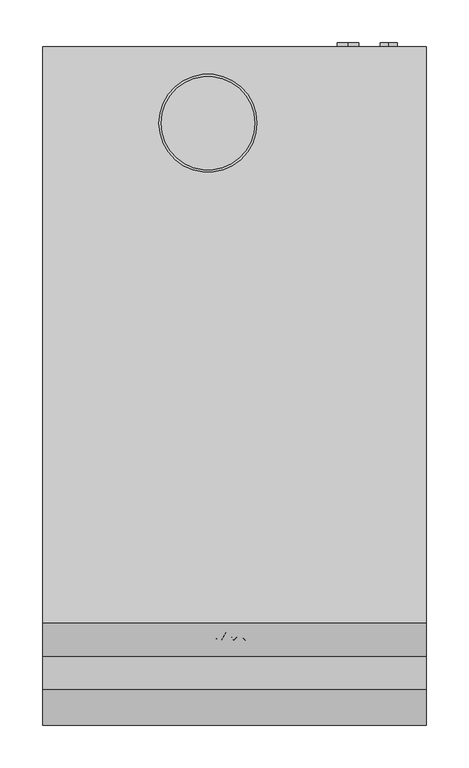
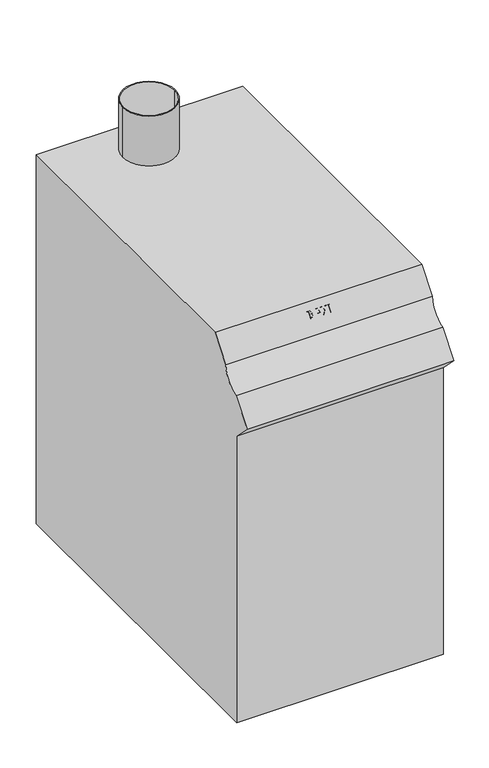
"""IFC4 building model written with IfcOpenShell, lengths in millimetres: proxy geometry, BAXI_ГазовыйКотел_Power_HT_45-150 : BAXI_Газовый котел_Power_HT_1.850."""

from ifc_helpers import new_model, si_unit, point, frame, frame_2d, origin, place, context, project, spatial, polyline, circle_curve, trimmed, segment, composite_curve, outline, extrude, source, transform, mapped, element, save


def mechanical_equipment_393236bb(model_context):
    return source(origin(), model_context, "Body", "SweptSolid", [
        extrude(outline(composite_curve([segment(polyline([(-5.0, 850.0), (-5.0, 0.0), (-761.0, 0.0), (-761.0, 660.0), (-801.0, 700.0), (-759.2660851, 752.0109492)]), True, "CONTINUOUS"), segment(trimmed(circle_curve(frame_2d((-771.6738547, 801.4105648)), 50.9340237), [point((-759.2660851, 752.0109492))], [point((-720.7593668, 800.0))], True, "CARTESIAN"), True, "CONTINUOUS"), segment(polyline([(-720.7593668, 800.0), (-680.6390502, 850.0), (-5.0, 850.0)]), True, "CONTINUOUS")], self_intersect=False)), frame((-225.0, 0.0, 0.0), z_axis=(1.0, 0.0, 0.0), x_axis=(0.0, 1.0, 0.0)), (0.0, 0.0, 1.0), 450.0),
        extrude(outline(composite_curve([segment(trimmed(circle_curve(frame_2d((346.0, 133.5)), 12.5), [point((333.5, 133.5))], [point((358.5, 133.5))], False, "CARTESIAN"), True, "CONTINUOUS"), segment(trimmed(circle_curve(frame_2d((346.0, 133.5)), 12.5), [point((358.5, 133.5))], [point((333.5, 133.5))], False, "CARTESIAN"), True, "CONTINUOUS")], self_intersect=False)), frame((0.0, -94.5, 0.0), z_axis=(0.0, 1.0, 0.0), x_axis=(0.0, 0.0, 1.0)), (0.0, 0.0, 1.0), 94.5),
        extrude(outline(composite_curve([segment(trimmed(circle_curve(frame_2d((186.0, 133.5)), 12.5), [point((173.5, 133.5))], [point((198.5, 133.5))], False, "CARTESIAN"), True, "CONTINUOUS"), segment(trimmed(circle_curve(frame_2d((186.0, 133.5)), 12.5), [point((198.5, 133.5))], [point((173.5, 133.5))], False, "CARTESIAN"), True, "CONTINUOUS")], self_intersect=False)), frame((0.0, -94.5, 0.0), z_axis=(0.0, 1.0, 0.0), x_axis=(0.0, 0.0, 1.0)), (0.0, 0.0, 1.0), 94.5),
        extrude(outline(composite_curve([segment(trimmed(circle_curve(frame_2d((476.0, 181.0)), 10.0), [point((466.0, 181.0))], [point((486.0, 181.0))], False, "CARTESIAN"), True, "CONTINUOUS"), segment(trimmed(circle_curve(frame_2d((476.0, 181.0)), 10.0), [point((486.0, 181.0))], [point((466.0, 181.0))], False, "CARTESIAN"), True, "CONTINUOUS")], self_intersect=False)), frame((0.0, -94.5, 0.0), z_axis=(0.0, 1.0, 0.0), x_axis=(0.0, 0.0, 1.0)), (0.0, 0.0, 1.0), 94.5),
        extrude(outline(composite_curve([segment(trimmed(circle_curve(frame_2d((65.3668634, 133.5)), 10.0), [point((55.3668634, 133.5))], [point((75.3668634, 133.5))], False, "CARTESIAN"), True, "CONTINUOUS"), segment(trimmed(circle_curve(frame_2d((65.3668634, 133.5)), 10.0), [point((75.3668634, 133.5))], [point((55.3668634, 133.5))], False, "CARTESIAN"), True, "CONTINUOUS")], self_intersect=False)), frame((0.0, -94.5, 0.0), z_axis=(0.0, 1.0, 0.0), x_axis=(0.0, 0.0, 1.0)), (0.0, 0.0, 1.0), 94.5),
        extrude(outline(composite_curve([segment(trimmed(circle_curve(frame_2d((-31.0, -94.5)), 57.5), [point((-88.5, -94.5))], [point((26.5, -94.5))], False, "CARTESIAN"), True, "CONTINUOUS"), segment(trimmed(circle_curve(frame_2d((-31.0, -94.5)), 57.5), [point((26.5, -94.5))], [point((-88.5, -94.5))], False, "CARTESIAN"), True, "CONTINUOUS")], self_intersect=False), holes=[composite_curve([segment(trimmed(circle_curve(frame_2d((-31.0, -94.5)), 55.0), [point((-86.0, -94.5))], [point((24.0, -94.5))], True, "CARTESIAN"), True, "CONTINUOUS"), segment(trimmed(circle_curve(frame_2d((-31.0, -94.5)), 55.0), [point((24.0, -94.5))], [point((-86.0, -94.5))], True, "CARTESIAN"), True, "CONTINUOUS")], self_intersect=False)]), frame((0.0, 0.0, 850.0), z_axis=(0.0, 0.0, 1.0), x_axis=(1.0, 0.0, 0.0)), (0.0, 0.0, 1.0), 115.0),
        extrude(outline(polyline([(0.0, 0.0), (6.281731, 0.0), (9.0620138, -0.1518243), (10.7017164, -0.7875886), (11.9068219, -2.0742997), (12.3888641, -3.8753157), (11.8138295, -5.856623), (10.2519369, -7.211655), (12.1952881, -8.5932563), (12.8747019, -10.889599), (12.3869663, -12.9107602), (11.054708, -14.4783463), (8.972817, -15.2014096), (5.2303477, -15.303891), (0.0, -15.303891), (0.0, 0.0)]), holes=[polyline([(2.9150268, -2.6721079), (2.9150268, -6.0729726), (5.1392531, -6.0729726), (7.6063982, -6.0236297), (4.8659693, -2.6721079), (2.9150268, -2.6721079)]), polyline([(2.9150268, -8.7450806), (2.9150268, -12.631783), (5.9970604, -12.631783), (8.2820164, -12.5406884), (5.6061128, -8.7450806), (2.9150268, -8.7450806)])]), frame((-29.1315163, -687.4782546, 833.487354), z_axis=(0.0, -0.7799524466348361, 0.6258387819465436), x_axis=(1.0, 0.0, 0.0)), (0.0, 0.0, 1.0), 5.0),
        extrude(outline(polyline([(0.0, 0.0), (3.0630555, 0.0), (4.2624676, -3.4008647), (10.0431784, -3.4008647), (11.2274081, 0.0), (14.3322153, 0.0), (8.7450805, -15.303891), (5.6402733, -15.303891), (0.0, 0.0)]), holes=[polyline([(5.1961872, -6.0729726), (7.1661077, -11.6601074), (9.1094589, -6.0729726), (5.1961872, -6.0729726)])]), frame((-0.9529234, -697.0560231, 821.5510468), z_axis=(0.0, -0.7799524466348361, 0.6258387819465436), x_axis=(-1.0, 0.0, 0.0)), (0.0, 0.0, 1.0), 5.0),
        extrude(outline(polyline([(0.0, 0.0), (9.5718736, 0.0), (13.0938513, 7.9370131), (14.9522751, 5.079771), (12.6996984, 0.0014133), (18.2552198, 0.0016435), (20.1136436, -2.8555986), (11.4302974, -2.8572421), (7.549588, -11.6071484), (5.6911642, -8.7499063), (8.3056546, -2.8565859), (1.8584238, -2.8572421), (0.0, 0.0)])), frame((-0.8314639, -697.0560231, 821.5510468), z_axis=(0.0, -0.7799524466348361, 0.6258387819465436), x_axis=(0.5452392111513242, 0.5246284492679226, 0.6538189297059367)), (0.0, 0.0, 1.0), 5.0),
        extrude(outline(polyline([(0.0, -2.9150269), (0.0, 0.0), (5.0, 0.0), (5.0, -2.9150269), (0.0, -2.9150269)])), frame((17.5089134, -697.0560231, 821.5510468), z_axis=(0.0, 0.6258387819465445, 0.7799524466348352), x_axis=(0.0, -0.7799524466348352, 0.6258387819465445)), (0.0, 0.0, 1.0), 15.303891),
    ])


if __name__ == "__main__":
    model = new_model("IFC4")
    model_context = context("Model", 3, world=origin())
    ifc_project = project(units=[si_unit("LENGTHUNIT", "METRE", prefix="MILLI")], contexts=[model_context])
    site = spatial("IfcSite", under=ifc_project)
    building = spatial("IfcBuilding", under=site)
    placement = place(None, origin())
    mechanical_equipment_shape = mechanical_equipment_393236bb(model_context)
    element("IfcBuildingElementProxy", 1, Name="BAXI_ГазовыйКотел_Power_HT_45-150 : BAXI_Газовый котел_Power_HT_1.850", ObjectType="BAXI_ГазовыйКотел_Power_HT_45-150 : BAXI_Газовый котел_Power_HT_1.850", at=placement, inside=building, context=model_context, shape_type="MappedRepresentation", body=[
        mapped(mechanical_equipment_shape, transform((0.0, 0.0, 0.0), x_axis=(1.0, 0.0, 0.0), y_axis=(0.0, 1.0, 0.0), z_axis=(0.0, 0.0, 1.0))),
    ])
    save(model, "model.ifc")
